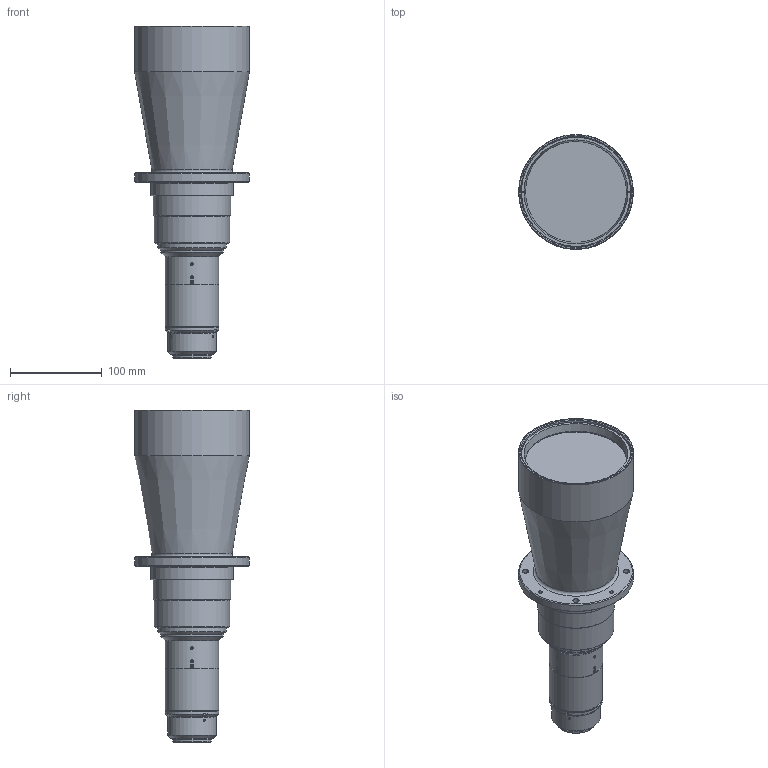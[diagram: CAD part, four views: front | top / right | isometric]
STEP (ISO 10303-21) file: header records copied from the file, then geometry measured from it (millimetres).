
FILE_DESCRIPTION (( 'STEP AP203' ), '1' );
FILE_NAME ('3d_mtl-9023p-026_a002.STEP', '2017-06-22T05:44:56', ( '' ), ( '' ), 'SwSTEP 2.0', 'SolidWorks 2014', '' );
FILE_SCHEMA (( 'CONFIG_CONTROL_DESIGN' ));
Length unit declared in the file: millimetre
Products named in the file (1): 3d_mtl-9023p-026_a002
Bounding box: 125 x 125 x 361.49 mm (x, y, z)
Volume: 2254182.5 mm3; surface area: 140809.7 mm2
Topology: 1 solids, 9 shells, 589 faces, 1343 edges, 806 vertices
Faces by surface type: plane 324, cone 175, cylinder 61, torus 21, sphere 8
Full cylindrical faces by diameter (mm): 1.6 x4, 2.5 x3, 3.2 x4, 3.5 x8, 3.8 x3, 4.2 x4, 6.6 x4, 28 x1, 32.5 x1, 36.5 x1, 38 x2, 39 x1, 40.916 x1, 42 x2, 44 x1, 45 x1, 53 x1, 57 x1, 58 x3, 68 x1, 75 x1, 82 x1, 84 x1, 85 x1, 90 x1, 110 x1, 119.187 x1, 125 x2
Entity records: 16139 total; most frequent: CARTESIAN_POINT 3735, DIRECTION 2678, ORIENTED_EDGE 2278, EDGE_CURVE 1139, AXIS2_PLACEMENT_3D 1119, EDGE_LOOP 807, VERTEX_POINT 756, FACE_OUTER_BOUND 673
